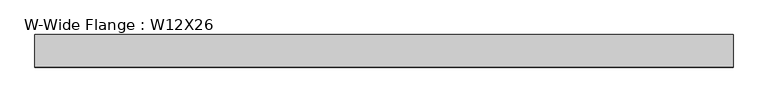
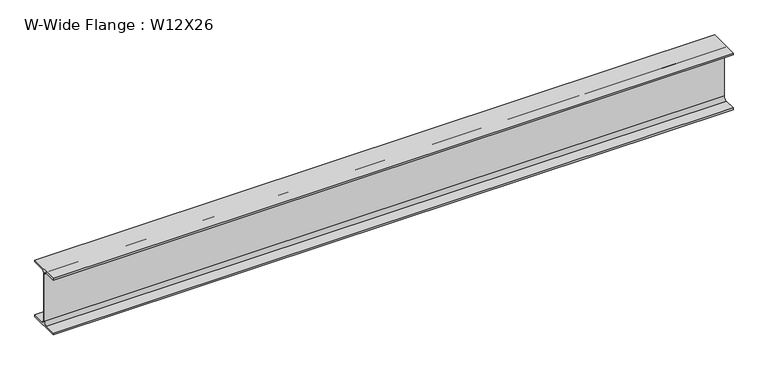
"""IFC4 building model written with IfcOpenShell, lengths in millimetres: beam geometry, W-Wide Flange : W12X26."""

from ifc_helpers import new_model, si_unit, point, frame, frame_2d, origin, place, context, project, spatial, polyline, circle_curve, trimmed, segment, composite_curve, outline, extrude, source, transform, mapped, element, save


def w_wide_flange_w12x26_c08ca6f5(model_context):
    return source(origin(), model_context, "Body", "SweptSolid", [
        extrude(outline(composite_curve([segment(polyline([(82.4011719, -145.5539063), (82.4011719, -155.178125), (-82.4011719, -155.178125), (-82.4011719, -145.5539063), (-20.2902344, -145.5539063)]), True, "CONTINUOUS"), segment(trimmed(circle_curve(frame_2d((-20.2902344, -128.190625)), 17.3632812), [point((-20.2902344, -145.5539063))], [point((-2.9269531, -128.190625))], True, "CARTESIAN"), True, "CONTINUOUS"), segment(polyline([(-2.9269531, -128.190625), (-2.9269531, 128.190625)]), True, "CONTINUOUS"), segment(trimmed(circle_curve(frame_2d((-20.2902344, 128.190625)), 17.3632812), [point((-2.9269531, 128.190625))], [point((-20.2902344, 145.5539062))], True, "CARTESIAN"), True, "CONTINUOUS"), segment(polyline([(-20.2902344, 145.5539062), (-82.4011719, 145.5539062), (-82.4011719, 155.178125), (82.4011719, 155.178125), (82.4011719, 145.5539062), (20.2902344, 145.5539062)]), True, "CONTINUOUS"), segment(trimmed(circle_curve(frame_2d((20.2902344, 128.190625)), 17.3632812), [point((20.2902344, 145.5539062))], [point((2.9269531, 128.190625))], True, "CARTESIAN"), True, "CONTINUOUS"), segment(polyline([(2.9269531, 128.190625), (2.9269531, -128.190625)]), True, "CONTINUOUS"), segment(trimmed(circle_curve(frame_2d((20.2902344, -128.190625)), 17.3632812), [point((2.9269531, -128.190625))], [point((20.2902344, -145.5539063))], True, "CARTESIAN"), True, "CONTINUOUS"), segment(polyline([(20.2902344, -145.5539063), (82.4011719, -145.5539063)]), True, "CONTINUOUS")], self_intersect=False)), frame((-1765.5480469, 0.0, 0.0), z_axis=(1.0, 0.0, 0.0), x_axis=(0.0, 1.0, 0.0)), (0.0, 0.0, 1.0), 3531.0960937),
    ])


if __name__ == "__main__":
    model = new_model("IFC4")
    model_context = context("Model", 3, world=origin())
    ifc_project = project(units=[si_unit("LENGTHUNIT", "METRE", prefix="MILLI")], contexts=[model_context])
    site = spatial("IfcSite", under=ifc_project)
    building = spatial("IfcBuilding", under=site)
    placement = place(None, origin())
    w_wide_flange_w12x26_shape = w_wide_flange_w12x26_c08ca6f5(model_context)
    element("IfcBeam", 1, ObjectType="W-Wide Flange : W12X26", at=placement, inside=building, context=model_context, shape_type="MappedRepresentation", body=[
        mapped(w_wide_flange_w12x26_shape, transform((0.0, 0.0, 0.0), x_axis=(1.0, 0.0, 0.0), y_axis=(0.0, 1.0, 0.0), z_axis=(0.0, 0.0, 1.0))),
    ])
    save(model, "model.ifc")
